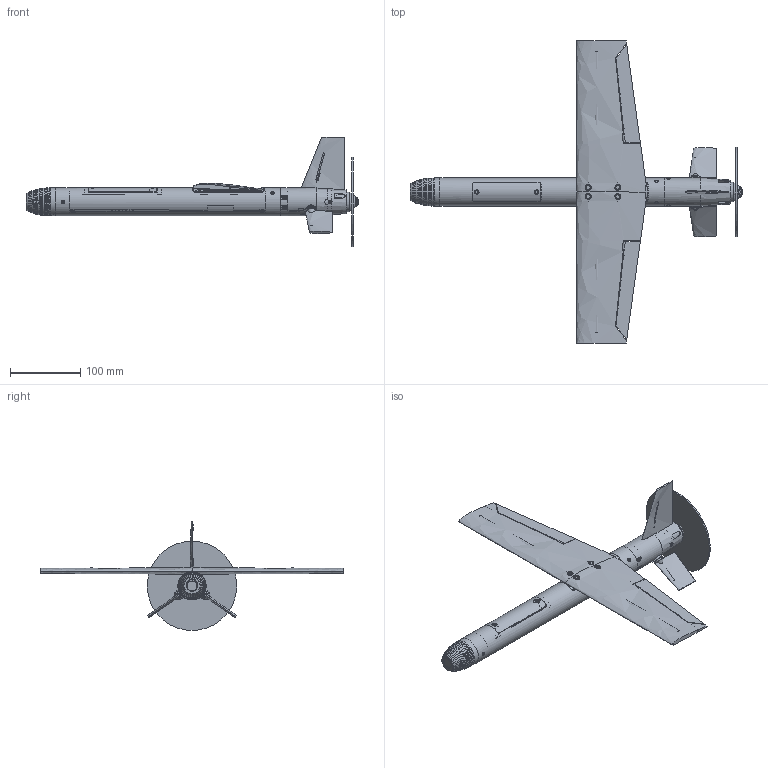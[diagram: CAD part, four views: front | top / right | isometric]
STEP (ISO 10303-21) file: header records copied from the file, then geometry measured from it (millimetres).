
FILE_DESCRIPTION(('SkyG Speed 90B - revision C6B-10 - 2026-10-11','C6B-assembly'),'2;1');
FILE_NAME('C6B-assembly_C6B-10','2026-10-11T10:45:29',('Author'),( 'Open CASCADE'),'Open CASCADE STEP processor 7.9','Open CASCADE 7.9' ,'Unknown');
FILE_SCHEMA(('AUTOMOTIVE_DESIGN { 1 0 10303 214 1 1 1 1 }'));
Length unit declared in the file: millimetre
Products named in the file (162): C4; N0M-nose-micro-camera; N0M-vtx-shelf; F3-tail-module; WR-wing-right; WL-wing-left; AR-aileron-right; AL-aileron-left; SR-stabilator-right; SL-stabilator-left; FN-fin; AHR-aileron-horn-right; AHL-aileron-horn-left; THR-tail-horn-right; THL-tail-horn-left; TR-equipment-tray; TC-tail-coupler; CW-countersunk-washer; NB1-wing-nut-bar-front; NB2-wing-nut-bar-rear; HL1-hatch-lip-front; HL2-hatch-lip-rear; HF-front-hatch; WF-wing-window-filler; HG-gps-carrier; M1-motor-plate; SP-spinner; ENV-scr_mplate_R; ENV-cw_13; ENV-scr_mplate_L; ENV-cw_14; ENV-motor; ENV-prop_disc; ENV-prop_hub_nut; ENV-battery; ENV-camera_micro19; ENV-cam_screws; ENV-O_o4_camera; ENV-O_o4_screws; ENV-O_o4_module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
Assembly tree (161 placements, depth 2):
  C4
    N0M-nose-micro-camera
    N0M-vtx-shelf
    F3-tail-module
    WR-wing-right
    WL-wing-left
    AR-aileron-right
    AL-aileron-left
    SR-stabilator-right
    SL-stabilator-left
    FN-fin
    AHR-aileron-horn-right
    AHL-aileron-horn-left
    THR-tail-horn-right
    THL-tail-horn-left
    TR-equipment-tray
    TC-tail-coupler
    CW-countersunk-washer
    NB1-wing-nut-bar-front
    NB2-wing-nut-bar-rear
    HL1-hatch-lip-front
    HL2-hatch-lip-rear
    HF-front-hatch
    WF-wing-window-filler
    HG-gps-carrier
    M1-motor-plate
    SP-spinner
    ENV-scr_mplate_R
    ENV-cw_13
    ENV-scr_mplate_L
    ENV-cw_14
    ENV-motor
    ENV-prop_disc
    ENV-prop_hub_nut
    ENV-battery
    ENV-camera_micro19
    ENV-cam_screws
    ENV-O_o4_camera
    ENV-O_o4_screws
    ENV-O_o4_module
    ENV-vtx
    ENV-gnss
    ENV-flight_controller
    ENV-ail_servo_arm
    ENV-ail_rod_R
    ENV-ail_link_R
    ENV-ail_rod_L
    ENV-ail_link_L
    ENV-ail_spine_R
    ENV-ail_spine_L
    ENV-receiver
    ENV-ant_elrs
    ENV-ant_vtx
    ENV-O_ant_video
    ENV-aileron_servo
    ENV-tail_servo_L
    ENV-tail_servo_R
    ENV-esc
    ENV-tail_servo_arm_R
    ENV-tail_link_R
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Bounding box: 472.19 x 430 x 155.1 mm (x, y, z)
Volume: 478649.8 mm3; surface area: 354052.1 mm2
Topology: 185 solids, 185 shells, 2671 faces, 6767 edges, 4482 vertices
Faces by surface type: plane 1717, cylinder 559, bspline 211, cone 151, torus 15, revolution 11, sphere 7
Full cylindrical faces by diameter (mm): 0.98 x6, 1.107 x11, 1.2 x22, 1.25 x8, 1.5 x2, 1.6 x34, 1.9 x1, 2 x32, 2.1 x2, 2.2 x22, 2.5 x2, 2.6 x4, 2.842 x6, 3 x17, 3.05 x2, 3.2 x8, 3.8 x2, 3.9 x3, 3.94 x3, 4 x4, 4.9 x14, 5 x12, 5.2 x3, 5.5 x4, 5.6 x3, 6 x5, 6.3 x2, 8 x4, 9 x1, 9.2 x1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
Entity records: 428508 total; most frequent: CARTESIAN_POINT 298149, DIRECTION 20736, ORIENTED_EDGE 13520, PCURVE 13520, DEFINITIONAL_REPRESENTATION 13520, LINE 9362, VECTOR 9362, EDGE_CURVE 6760
